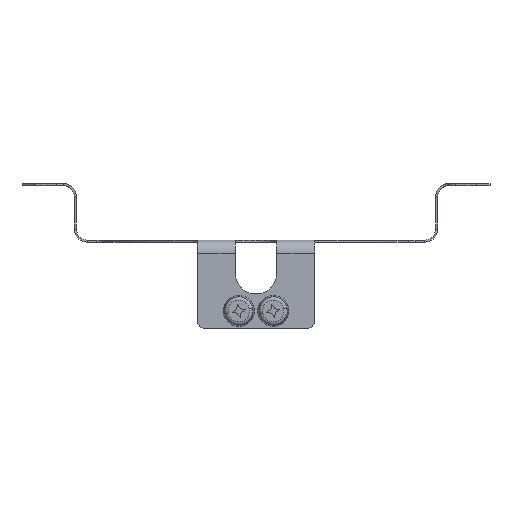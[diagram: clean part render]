
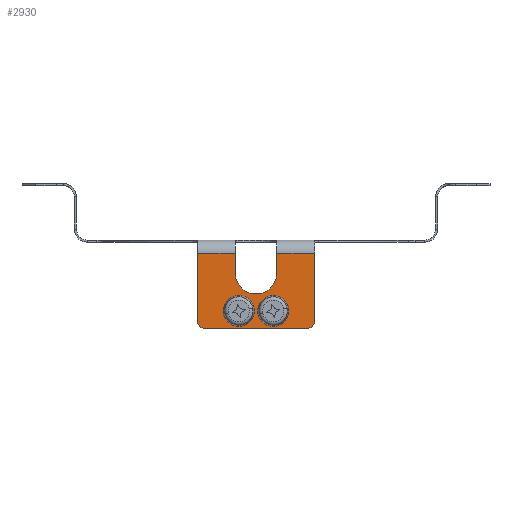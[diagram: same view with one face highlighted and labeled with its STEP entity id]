
A CAD part, front view. The second image highlights one B-rep face of the part: STEP entity #2930.
In plain terms, the highlighted planar face has unit normal (0, -1, 0).
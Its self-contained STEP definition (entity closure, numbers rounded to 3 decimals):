
#36 = DIRECTION ( 'NONE',  ( 0., -1., 0. ) ) ;
#74 = DIRECTION ( 'NONE',  ( 0., 0., -1. ) ) ;
#128 = VERTEX_POINT ( 'NONE', #6227 ) ;
#152 = ORIENTED_EDGE ( 'NONE', *, *, #4396, .F. ) ;
#286 = VERTEX_POINT ( 'NONE', #5258 ) ;
#322 = VECTOR ( 'NONE', #1099, 1000. ) ;
#328 = AXIS2_PLACEMENT_3D ( 'NONE', #644, #36, #3729 ) ;
#448 = DIRECTION ( 'NONE',  ( 0., 0., -1. ) ) ;
#583 = ORIENTED_EDGE ( 'NONE', *, *, #4625, .T. ) ;
#628 = CARTESIAN_POINT ( 'NONE',  ( 7.5, -26.4, -11.53 ) ) ;
#644 = CARTESIAN_POINT ( 'NONE',  ( -8.5, -26.4, 0.3 ) ) ;
#704 = VECTOR ( 'NONE', #1544, 1000. ) ;
#890 = EDGE_LOOP ( 'NONE', ( #1870, #1080, #583, #3562, #5899, #3398, #152, #6054, #3107, #2323, #3454 ) ) ;
#934 = LINE ( 'NONE', #6207, #1339 ) ;
#1008 = CIRCLE ( 'NONE', #5144, 1. ) ;
#1028 = CARTESIAN_POINT ( 'NONE',  ( -2.5, -26.4, -8.701 ) ) ;
#1073 = DIRECTION ( 'NONE',  ( 0., 0., -1. ) ) ;
#1080 = ORIENTED_EDGE ( 'NONE', *, *, #4394, .T. ) ;
#1099 = DIRECTION ( 'NONE',  ( 1., 0., 0. ) ) ;
#1130 = CARTESIAN_POINT ( 'NONE',  ( -7.5, -26.4, -12.53 ) ) ;
#1220 = VECTOR ( 'NONE', #3953, 1000. ) ;
#1236 = CIRCLE ( 'NONE', #3756, 1. ) ;
#1316 = DIRECTION ( 'NONE',  ( 0., -1., 0. ) ) ;
#1331 = LINE ( 'NONE', #4738, #322 ) ;
#1339 = VECTOR ( 'NONE', #2131, 1000. ) ;
#1469 = VECTOR ( 'NONE', #1073, 1000. ) ;
#1503 = LINE ( 'NONE', #4176, #1469 ) ;
#1516 = VERTEX_POINT ( 'NONE', #1130 ) ;
#1544 = DIRECTION ( 'NONE',  ( -1., 0., 0. ) ) ;
#1548 = CIRCLE ( 'NONE', #3972, 1.3 ) ;
#1639 = DIRECTION ( 'NONE',  ( 0., 0., -1. ) ) ;
#1656 = VERTEX_POINT ( 'NONE', #4495 ) ;
#1747 = VERTEX_POINT ( 'NONE', #3646 ) ;
#1830 = CARTESIAN_POINT ( 'NONE',  ( -2.5, -26.4, -10.001 ) ) ;
#1870 = ORIENTED_EDGE ( 'NONE', *, *, #4235, .T. ) ;
#1886 = CARTESIAN_POINT ( 'NONE',  ( 3., -26.4, 0.3 ) ) ;
#2131 = DIRECTION ( 'NONE',  ( 0., 0., -1. ) ) ;
#2173 = CARTESIAN_POINT ( 'NONE',  ( -2.5, -26.4, -10.001 ) ) ;
#2213 = ORIENTED_EDGE ( 'NONE', *, *, #4132, .F. ) ;
#2235 = ORIENTED_EDGE ( 'NONE', *, *, #4193, .F. ) ;
#2247 = LINE ( 'NONE', #4131, #704 ) ;
#2252 = LINE ( 'NONE', #3596, #5177 ) ;
#2279 = CIRCLE ( 'NONE', #2516, 1.3 ) ;
#2323 = ORIENTED_EDGE ( 'NONE', *, *, #4274, .F. ) ;
#2478 = DIRECTION ( 'NONE',  ( 0., 0., -1. ) ) ;
#2516 = AXIS2_PLACEMENT_3D ( 'NONE', #1830, #4916, #5304 ) ;
#2530 = CIRCLE ( 'NONE', #5984, 1.3 ) ;
#2553 = LINE ( 'NONE', #4537, #5737 ) ;
#2621 = DIRECTION ( 'NONE',  ( 0., -1., 0. ) ) ;
#2854 = VERTEX_POINT ( 'NONE', #5284 ) ;
#2897 = ORIENTED_EDGE ( 'NONE', *, *, #5248, .F. ) ;
#2916 = DIRECTION ( 'NONE',  ( 0., -1., 0. ) ) ;
#2930 = ADVANCED_FACE ( 'NONE', ( #3060, #3049, #3044 ), #3991, .T. ) ;
#3000 = CARTESIAN_POINT ( 'NONE',  ( 0., -26.4, -4.53 ) ) ;
#3044 = FACE_BOUND ( 'NONE', #4170, .T. ) ;
#3049 = FACE_BOUND ( 'NONE', #4965, .T. ) ;
#3060 = FACE_OUTER_BOUND ( 'NONE', #890, .T. ) ;
#3089 = CIRCLE ( 'NONE', #4743, 3. ) ;
#3107 = ORIENTED_EDGE ( 'NONE', *, *, #4308, .F. ) ;
#3176 = VERTEX_POINT ( 'NONE', #5954 ) ;
#3257 = EDGE_CURVE ( 'NONE', #128, #1656, #2553, .T. ) ;
#3258 = VERTEX_POINT ( 'NONE', #5262 ) ;
#3398 = ORIENTED_EDGE ( 'NONE', *, *, #4268, .T. ) ;
#3454 = ORIENTED_EDGE ( 'NONE', *, *, #3257, .T. ) ;
#3526 = EDGE_CURVE ( 'NONE', #286, #4291, #2530, .T. ) ;
#3562 = ORIENTED_EDGE ( 'NONE', *, *, #4533, .T. ) ;
#3596 = CARTESIAN_POINT ( 'NONE',  ( -3., -26.4, 0.3 ) ) ;
#3638 = CARTESIAN_POINT ( 'NONE',  ( 3., -26.4, -4.53 ) ) ;
#3643 = VERTEX_POINT ( 'NONE', #5781 ) ;
#3646 = CARTESIAN_POINT ( 'NONE',  ( 0., -26.4, -7.53 ) ) ;
#3729 = DIRECTION ( 'NONE',  ( 0., 0., -1. ) ) ;
#3756 = AXIS2_PLACEMENT_3D ( 'NONE', #6454, #2916, #5964 ) ;
#3768 = DIRECTION ( 'NONE',  ( 0., -1., 0. ) ) ;
#3953 = DIRECTION ( 'NONE',  ( 0., 0., 1. ) ) ;
#3972 = AXIS2_PLACEMENT_3D ( 'NONE', #6176, #2621, #5707 ) ;
#3991 = PLANE ( 'NONE',  #328 ) ;
#4009 = DIRECTION ( 'NONE',  ( 0., 0., -1. ) ) ;
#4025 = AXIS2_PLACEMENT_3D ( 'NONE', #2173, #5263, #1639 ) ;
#4058 = ORIENTED_EDGE ( 'NONE', *, *, #3526, .F. ) ;
#4113 = EDGE_CURVE ( 'NONE', #1747, #4925, #4623, .T. ) ;
#4120 = CARTESIAN_POINT ( 'NONE',  ( 2.5, -26.4, -11.301 ) ) ;
#4131 = CARTESIAN_POINT ( 'NONE',  ( -8.5, -26.4, -1.6 ) ) ;
#4132 = EDGE_CURVE ( 'NONE', #3176, #6671, #6035, .T. ) ;
#4170 = EDGE_LOOP ( 'NONE', ( #2213, #2897 ) ) ;
#4176 = CARTESIAN_POINT ( 'NONE',  ( -8.5, -26.4, 0.3 ) ) ;
#4193 = EDGE_CURVE ( 'NONE', #4291, #286, #1548, .T. ) ;
#4235 = EDGE_CURVE ( 'NONE', #1656, #5037, #1503, .T. ) ;
#4268 = EDGE_CURVE ( 'NONE', #6069, #2854, #2247, .T. ) ;
#4274 = EDGE_CURVE ( 'NONE', #128, #3258, #2252, .T. ) ;
#4291 = VERTEX_POINT ( 'NONE', #4120 ) ;
#4308 = EDGE_CURVE ( 'NONE', #3258, #1747, #3089, .T. ) ;
#4360 = AXIS2_PLACEMENT_3D ( 'NONE', #4531, #4554, #4009 ) ;
#4394 = EDGE_CURVE ( 'NONE', #5037, #1516, #1236, .T. ) ;
#4396 = EDGE_CURVE ( 'NONE', #4925, #2854, #4903, .T. ) ;
#4416 = VERTEX_POINT ( 'NONE', #4957 ) ;
#4495 = CARTESIAN_POINT ( 'NONE',  ( -8.5, -26.4, -1.6 ) ) ;
#4508 = CARTESIAN_POINT ( 'NONE',  ( 2.5, -26.4, -10.001 ) ) ;
#4531 = CARTESIAN_POINT ( 'NONE',  ( 0., -26.4, -4.53 ) ) ;
#4533 = EDGE_CURVE ( 'NONE', #4416, #3643, #1008, .T. ) ;
#4537 = CARTESIAN_POINT ( 'NONE',  ( -8.5, -26.4, -1.6 ) ) ;
#4554 = DIRECTION ( 'NONE',  ( 0., -1., 0. ) ) ;
#4623 = CIRCLE ( 'NONE', #4360, 3. ) ;
#4625 = EDGE_CURVE ( 'NONE', #1516, #4416, #1331, .T. ) ;
#4641 = EDGE_CURVE ( 'NONE', #6069, #3643, #934, .T. ) ;
#4738 = CARTESIAN_POINT ( 'NONE',  ( -8.5, -26.4, -12.53 ) ) ;
#4743 = AXIS2_PLACEMENT_3D ( 'NONE', #3000, #6046, #2478 ) ;
#4903 = LINE ( 'NONE', #1886, #1220 ) ;
#4916 = DIRECTION ( 'NONE',  ( 0., -1., 0. ) ) ;
#4925 = VERTEX_POINT ( 'NONE', #3638 ) ;
#4957 = CARTESIAN_POINT ( 'NONE',  ( 7.5, -26.4, -12.53 ) ) ;
#4965 = EDGE_LOOP ( 'NONE', ( #2235, #4058 ) ) ;
#5037 = VERTEX_POINT ( 'NONE', #5290 ) ;
#5144 = AXIS2_PLACEMENT_3D ( 'NONE', #628, #3768, #74 ) ;
#5177 = VECTOR ( 'NONE', #448, 1000. ) ;
#5248 = EDGE_CURVE ( 'NONE', #6671, #3176, #2279, .T. ) ;
#5258 = CARTESIAN_POINT ( 'NONE',  ( 2.5, -26.4, -8.701 ) ) ;
#5262 = CARTESIAN_POINT ( 'NONE',  ( -3., -26.4, -4.53 ) ) ;
#5263 = DIRECTION ( 'NONE',  ( 0., -1., 0. ) ) ;
#5284 = CARTESIAN_POINT ( 'NONE',  ( 3., -26.4, -1.6 ) ) ;
#5290 = CARTESIAN_POINT ( 'NONE',  ( -8.5, -26.4, -11.53 ) ) ;
#5304 = DIRECTION ( 'NONE',  ( 0., 0., -1. ) ) ;
#5640 = CARTESIAN_POINT ( 'NONE',  ( 8.5, -26.4, -1.6 ) ) ;
#5661 = DIRECTION ( 'NONE',  ( 0., 0., -1. ) ) ;
#5707 = DIRECTION ( 'NONE',  ( 0., 0., -1. ) ) ;
#5737 = VECTOR ( 'NONE', #5838, 1000. ) ;
#5781 = CARTESIAN_POINT ( 'NONE',  ( 8.5, -26.4, -11.53 ) ) ;
#5838 = DIRECTION ( 'NONE',  ( -1., 0., 0. ) ) ;
#5899 = ORIENTED_EDGE ( 'NONE', *, *, #4641, .F. ) ;
#5954 = CARTESIAN_POINT ( 'NONE',  ( -2.5, -26.4, -11.301 ) ) ;
#5964 = DIRECTION ( 'NONE',  ( 0., 0., -1. ) ) ;
#5984 = AXIS2_PLACEMENT_3D ( 'NONE', #4508, #1316, #5661 ) ;
#6035 = CIRCLE ( 'NONE', #4025, 1.3 ) ;
#6046 = DIRECTION ( 'NONE',  ( 0., -1., 0. ) ) ;
#6054 = ORIENTED_EDGE ( 'NONE', *, *, #4113, .F. ) ;
#6069 = VERTEX_POINT ( 'NONE', #5640 ) ;
#6176 = CARTESIAN_POINT ( 'NONE',  ( 2.5, -26.4, -10.001 ) ) ;
#6207 = CARTESIAN_POINT ( 'NONE',  ( 8.5, -26.4, 0.3 ) ) ;
#6227 = CARTESIAN_POINT ( 'NONE',  ( -3., -26.4, -1.6 ) ) ;
#6454 = CARTESIAN_POINT ( 'NONE',  ( -7.5, -26.4, -11.53 ) ) ;
#6671 = VERTEX_POINT ( 'NONE', #1028 ) ;
